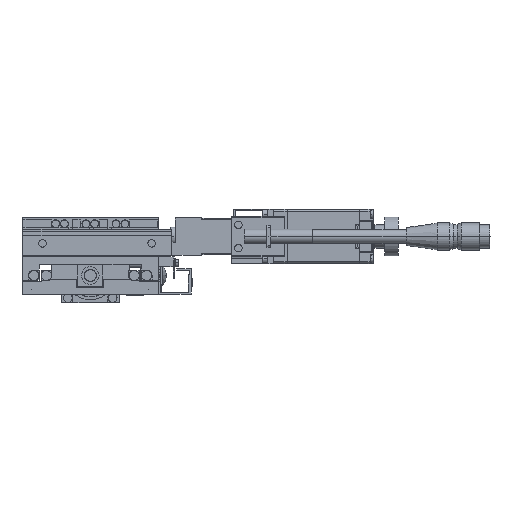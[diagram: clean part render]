
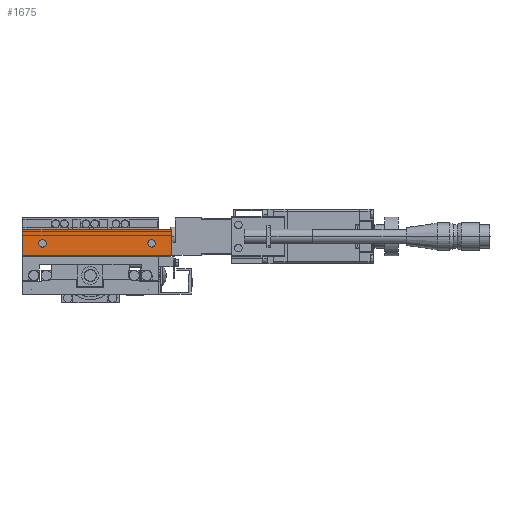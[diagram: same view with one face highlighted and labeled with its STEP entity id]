
A CAD part, left-side view. The second image highlights one B-rep face of the part: STEP entity #1675.
In plain terms, the highlighted planar face has unit normal (-1, 0, 0).
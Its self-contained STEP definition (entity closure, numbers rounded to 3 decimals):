
#1675=ADVANCED_FACE('',(#4418,#4419,#4420),#4421,.F.);
#4418=FACE_BOUND('',#7645,.T.);
#4419=FACE_BOUND('',#7646,.T.);
#4420=FACE_OUTER_BOUND('',#7647,.T.);
#4421=PLANE('',#7648);
#7645=EDGE_LOOP('',(#17147,#17148));
#7646=EDGE_LOOP('',(#17149,#17150));
#7647=EDGE_LOOP('',(#17151,#17152,#17153,#17154));
#7648=AXIS2_PLACEMENT_3D('',#17155,#17156,#17157);
#17147=ORIENTED_EDGE('',*,*,#23256,.T.);
#17148=ORIENTED_EDGE('',*,*,#23218,.T.);
#17149=ORIENTED_EDGE('',*,*,#23257,.T.);
#17150=ORIENTED_EDGE('',*,*,#23222,.T.);
#17151=ORIENTED_EDGE('',*,*,#23238,.T.);
#17152=ORIENTED_EDGE('',*,*,#23258,.F.);
#17153=ORIENTED_EDGE('',*,*,#23243,.F.);
#17154=ORIENTED_EDGE('',*,*,#23254,.T.);
#17155=CARTESIAN_POINT('',(-51.8,-41.5,33.5));
#17156=DIRECTION('',(1.0,0.,0.));
#17157=DIRECTION('',(0.,0.,-1.0));
#23218=EDGE_CURVE('',#28619,#28623,#28625,.T.);
#23222=EDGE_CURVE('',#28627,#28631,#28633,.T.);
#23238=EDGE_CURVE('',#28643,#28663,#28665,.T.);
#23243=EDGE_CURVE('',#28671,#28673,#28674,.T.);
#23254=EDGE_CURVE('',#28671,#28643,#28694,.T.);
#23256=EDGE_CURVE('',#28623,#28619,#28696,.T.);
#23257=EDGE_CURVE('',#28631,#28627,#28697,.T.);
#23258=EDGE_CURVE('',#28673,#28663,#28698,.T.);
#28619=VERTEX_POINT('',#36694);
#28623=VERTEX_POINT('',#36699);
#28625=CIRCLE('',#36702,1.95);
#28627=VERTEX_POINT('',#36704);
#28631=VERTEX_POINT('',#36709);
#28633=CIRCLE('',#36712,1.95);
#28643=VERTEX_POINT('',#36724);
#28663=VERTEX_POINT('',#36754);
#28665=LINE('',#36757,#36758);
#28671=VERTEX_POINT('',#36764);
#28673=VERTEX_POINT('',#36767);
#28674=LINE('',#36768,#36769);
#28694=LINE('',#36799,#36800);
#28696=CIRCLE('',#36803,1.95);
#28697=CIRCLE('',#36804,1.95);
#28698=LINE('',#36805,#36806);
#36694=CARTESIAN_POINT('',(-51.8,22.55,26.5));
#36699=CARTESIAN_POINT('',(-51.8,26.45,26.5));
#36702=AXIS2_PLACEMENT_3D('',#43964,#43965,#43966);
#36704=CARTESIAN_POINT('',(-51.8,-33.45,26.5));
#36709=CARTESIAN_POINT('',(-51.8,-29.55,26.5));
#36712=AXIS2_PLACEMENT_3D('',#43972,#43973,#43974);
#36724=CARTESIAN_POINT('',(-51.8,34.5,33.5));
#36754=CARTESIAN_POINT('',(-51.8,34.5,20.5));
#36757=CARTESIAN_POINT('',(-51.8,34.5,33.5));
#36758=VECTOR('',#43994,1000.0);
#36764=CARTESIAN_POINT('',(-51.8,-41.5,33.5));
#36767=CARTESIAN_POINT('',(-51.8,-41.5,20.5));
#36768=CARTESIAN_POINT('',(-51.8,-41.5,33.5));
#36769=VECTOR('',#44005,1000.0);
#36799=CARTESIAN_POINT('',(-51.8,-41.5,33.5));
#36800=VECTOR('',#44016,1000.0);
#36803=AXIS2_PLACEMENT_3D('',#44018,#44019,#44020);
#36804=AXIS2_PLACEMENT_3D('',#44021,#44022,#44023);
#36805=CARTESIAN_POINT('',(-51.8,-41.5,20.5));
#36806=VECTOR('',#44024,1000.0);
#43964=CARTESIAN_POINT('',(-51.8,24.5,26.5));
#43965=DIRECTION('',(1.0,0.,0.));
#43966=DIRECTION('',(0.,1.0,0.));
#43972=CARTESIAN_POINT('',(-51.8,-31.5,26.5));
#43973=DIRECTION('',(1.0,0.,0.));
#43974=DIRECTION('',(0.,1.0,0.));
#43994=DIRECTION('',(0.,0.,-1.0));
#44005=DIRECTION('',(0.,0.,-1.0));
#44016=DIRECTION('',(0.,1.0,0.));
#44018=CARTESIAN_POINT('',(-51.8,24.5,26.5));
#44019=DIRECTION('',(1.0,0.,0.));
#44020=DIRECTION('',(0.,1.0,0.));
#44021=CARTESIAN_POINT('',(-51.8,-31.5,26.5));
#44022=DIRECTION('',(1.0,0.,0.));
#44023=DIRECTION('',(0.,1.0,0.));
#44024=DIRECTION('',(0.,1.0,0.));
